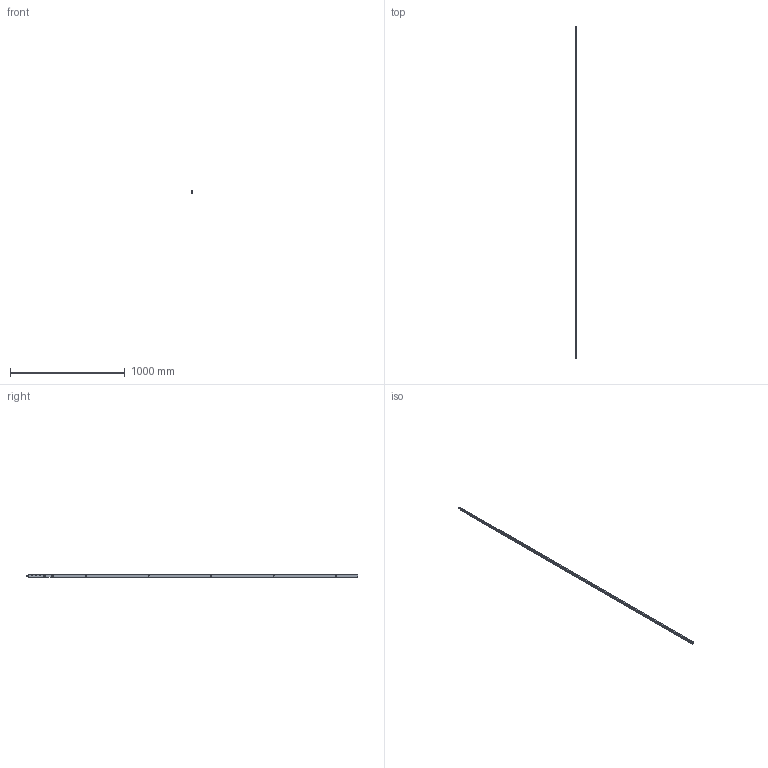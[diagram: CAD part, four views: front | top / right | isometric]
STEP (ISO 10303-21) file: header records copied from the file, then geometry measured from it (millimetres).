
FILE_DESCRIPTION (( 'STEP AP214' ), '1' );
FILE_NAME ('TPL-W-APC-522-L 15Oct2024.STEP', '2024-12-08T23:14:42', ( '' ), ( '' ), 'SwSTEP 2.0', 'SolidWorks 2023', '' );
FILE_SCHEMA (( 'AUTOMOTIVE_DESIGN' ));
Length unit declared in the file: millimetre
Products named in the file (19): Copy of COV-115-B Cover B suit TPLGen2 standard range AU with hinge holes^TPL-W-APC-009 11Oct2024_2870mm; Copy of Copy of Copy of LKC-531 Lock twinpoint transmission rod wood system^TPL-W-APC-009 11Oct2024_Standard Range 2891.7mm; Copy of Handle sub-assembly - simplified^Copy of TPGen2 handle keyed internal - simplified_TPL-W-APC-009 11Oct2024; Copy of TPL-036 Lock cylinder double key C4 3-5 PIN 55 (23-32)mm^TPL-W-APC-009 11Oct2024_Left; Bolt.step; Copy of TPLGen2 lock body keyed^Copy of TPLGen2 lock body keyed assembly_TPL-W-APC-009 11Oct2024; TPL-W-APC-522-L 15Oct2024; Copy of Escutcheon plate keyed external 280mm - simplified^Copy of TPGen2 handle keyed external - simplified_TPL-W-APC-009 11Oct2024; Copy of COV-115-A Cover A suit TPLGen2 standard range AU with hinge holes^TPL-W-APC-009 11Oct2024_2870mm; Copy of LKC-547 Spindle - simplified^Copy of TPGen2 handle keyed internal - simplified_TPL-W-APC-009 11Oct2024_A - 11mm; Copy of TPLGen2 push rod - simplified^Copy of TPLGen2 lock body keyed assembly_TPL-W-APC-009 11Oct2024_Female thread M10; Copy of Escutcheon plate keyed internal 280mm - simplified^Copy of TPGen2 handle keyed internal - simplified_TPL-W-APC-009 11Oct2024; Copy of Adapter DnF - simplfied^TPL-W-APC-009 11Oct2024_26mm backset; Copy of Adapter CnE - simplfied^TPL-W-APC-009 11Oct2024_26mm backset; Copy of Copy of LKC-531 Lock twinpoint transmission rod wood system^TPL-W-APC-009 11Oct2024_Standard Range 2891.7mm; Copy of Handle sub-assembly - simplified^Copy of TPGen2 handle keyed external - simplified_TPL-W-APC-009 11Oct2024; Copy of COV-115-C Cover C suit TPLGen2 standard range AU^TPL-W-APC-009 11Oct2024; Copy of LKC-547 Spindle - simplified^Copy of TPGen2 handle keyed external - simplified_TPL-W-APC-009 11Oct2024_E - 19mm
Assembly tree (3 placements, depth 2):
  Copy of COV-115-B Cover B suit TPLGen2 standard range AU with hinge holes^TPL-W-APC-009 11Oct2024_2870mm
  Copy of Copy of Copy of LKC-531 Lock twinpoint transmission rod wood system^TPL-W-APC-009 11Oct2024_Standard Range 2891.7mm
  Copy of Handle sub-assembly - simplified^Copy of TPGen2 handle keyed internal - simplified_TPL-W-APC-009 11Oct2024
  Copy of TPL-036 Lock cylinder double key C4 3-5 PIN 55 (23-32)mm^TPL-W-APC-009 11Oct2024_Left
  Copy of TPLGen2 lock body keyed^Copy of TPLGen2 lock body keyed assembly_TPL-W-APC-009 11Oct2024
Bounding box: 10.8 x 2895 x 21 mm (x, y, z)
Volume: 381505.6 mm3; surface area: 313221.2 mm2
Topology: 3 solids, 3 shells, 177 faces, 541 edges, 358 vertices
Faces by surface type: plane 82, cylinder 71, cone 22, sphere 2
Entity records: 6960 total; most frequent: CARTESIAN_POINT 1802, ORIENTED_EDGE 1076, DIRECTION 988, EDGE_CURVE 538, VERTEX_POINT 357, AXIS2_PLACEMENT_3D 349, LINE 290, VECTOR 290
